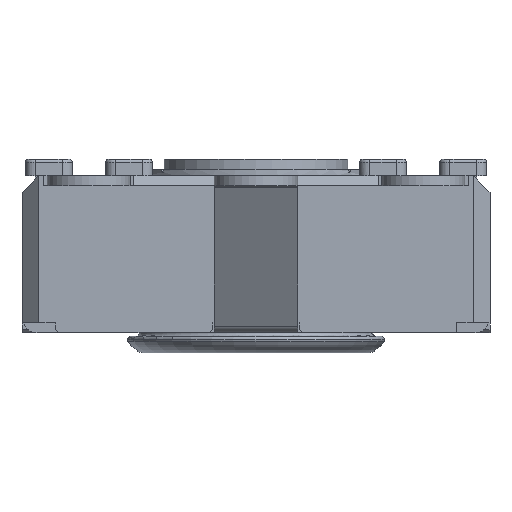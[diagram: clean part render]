
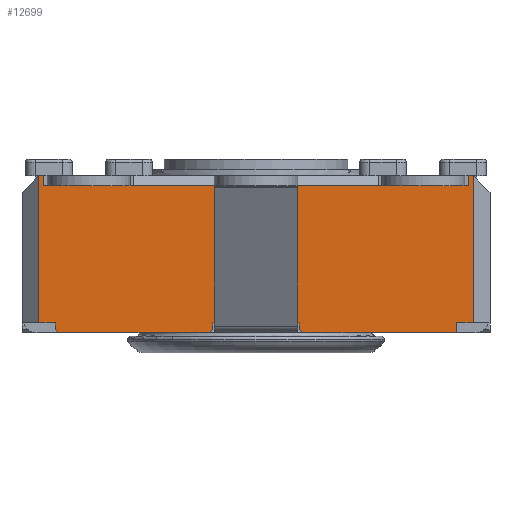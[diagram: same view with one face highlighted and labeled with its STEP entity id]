
A CAD part, front view. The second image highlights one B-rep face of the part: STEP entity #12699.
In plain terms, the highlighted planar face has unit normal (0, -1, 0).
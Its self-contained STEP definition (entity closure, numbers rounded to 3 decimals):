
#992=FACE_OUTER_BOUND('',#1664,.T.);
#1664=EDGE_LOOP('',(#9924,#9925,#9926,#9927,#9928,#9929,#9930,#9931,#9932,
#9933,#9934,#9935,#9936,#9937,#9938,#9939,#9940,#9941,#9942,#9943,#9944,
#9945,#9946,#9947,#9948,#9949,#9950));
#2075=LINE('',#17800,#3520);
#2146=LINE('',#17995,#3591);
#2147=LINE('',#17997,#3592);
#2148=LINE('',#18000,#3593);
#2153=LINE('',#18010,#3598);
#2215=LINE('',#18141,#3660);
#2222=LINE('',#18158,#3667);
#2351=LINE('',#18562,#3796);
#2366=LINE('',#18591,#3811);
#2434=LINE('',#18743,#3879);
#2442=LINE('',#18756,#3887);
#2560=LINE('',#19230,#4005);
#2767=LINE('',#19754,#4212);
#2772=LINE('',#19763,#4217);
#2775=LINE('',#19768,#4220);
#2863=LINE('',#20046,#4308);
#2871=LINE('',#20064,#4316);
#2877=LINE('',#20072,#4322);
#2878=LINE('',#20075,#4323);
#2879=LINE('',#20077,#4324);
#2880=LINE('',#20079,#4325);
#2881=LINE('',#20080,#4326);
#2882=LINE('',#20081,#4327);
#2883=LINE('',#20082,#4328);
#2884=LINE('',#20083,#4329);
#2885=LINE('',#20084,#4330);
#2886=LINE('',#20085,#4331);
#3520=VECTOR('',#14260,10.);
#3591=VECTOR('',#14421,10.);
#3592=VECTOR('',#14424,10.);
#3593=VECTOR('',#14427,10.);
#3598=VECTOR('',#14432,10.);
#3660=VECTOR('',#14544,10.);
#3667=VECTOR('',#14557,10.);
#3796=VECTOR('',#14982,10.);
#3811=VECTOR('',#15011,10.);
#3879=VECTOR('',#15161,10.);
#3887=VECTOR('',#15171,10.);
#4005=VECTOR('',#15431,10.);
#4212=VECTOR('',#15780,10.);
#4217=VECTOR('',#15785,10.);
#4220=VECTOR('',#15790,10.);
#4308=VECTOR('',#16016,10.);
#4316=VECTOR('',#16028,10.);
#4322=VECTOR('',#16038,10.);
#4323=VECTOR('',#16041,10.);
#4324=VECTOR('',#16042,10.);
#4325=VECTOR('',#16043,10.);
#4326=VECTOR('',#16044,10.);
#4327=VECTOR('',#16045,10.);
#4328=VECTOR('',#16046,10.);
#4329=VECTOR('',#16047,10.);
#4330=VECTOR('',#16048,10.);
#4331=VECTOR('',#16049,10.);
#4913=VERTEX_POINT('',#17675);
#4965=VERTEX_POINT('',#17799);
#4993=VERTEX_POINT('',#17875);
#5016=VERTEX_POINT('',#17925);
#5040=VERTEX_POINT('',#17981);
#5042=VERTEX_POINT('',#17987);
#5045=VERTEX_POINT('',#17999);
#5049=VERTEX_POINT('',#18007);
#5050=VERTEX_POINT('',#18009);
#5094=VERTEX_POINT('',#18139);
#5101=VERTEX_POINT('',#18157);
#5227=VERTEX_POINT('',#18559);
#5228=VERTEX_POINT('',#18561);
#5234=VERTEX_POINT('',#18588);
#5235=VERTEX_POINT('',#18590);
#5278=VERTEX_POINT('',#18742);
#5282=VERTEX_POINT('',#18754);
#5410=VERTEX_POINT('',#19226);
#5561=VERTEX_POINT('',#19753);
#5565=VERTEX_POINT('',#19761);
#5618=VERTEX_POINT('',#20044);
#5619=VERTEX_POINT('',#20045);
#5626=VERTEX_POINT('',#20062);
#5627=VERTEX_POINT('',#20063);
#5628=VERTEX_POINT('',#20074);
#5629=VERTEX_POINT('',#20076);
#5630=VERTEX_POINT('',#20078);
#6192=EDGE_CURVE('',#4965,#4913,#2075,.T.);
#6289=EDGE_CURVE('',#5040,#4993,#2146,.T.);
#6290=EDGE_CURVE('',#5042,#5016,#2147,.T.);
#6291=EDGE_CURVE('',#5045,#4965,#2148,.T.);
#6296=EDGE_CURVE('',#5050,#5049,#2153,.T.);
#6363=EDGE_CURVE('',#4993,#5094,#2215,.T.);
#6371=EDGE_CURVE('',#5101,#5040,#2222,.T.);
#6574=EDGE_CURVE('',#5228,#5227,#2351,.T.);
#6589=EDGE_CURVE('',#5235,#5234,#2366,.T.);
#6666=EDGE_CURVE('',#5278,#5042,#2434,.T.);
#6674=EDGE_CURVE('',#5016,#5282,#2442,.T.);
#6841=EDGE_CURVE('',#5235,#5410,#2560,.T.);
#7069=EDGE_CURVE('',#5561,#5410,#2767,.T.);
#7074=EDGE_CURVE('',#4913,#5565,#2772,.T.);
#7077=EDGE_CURVE('',#5050,#5227,#2775,.T.);
#7184=EDGE_CURVE('',#5618,#5619,#2863,.T.);
#7192=EDGE_CURVE('',#5626,#5627,#2871,.T.);
#7198=EDGE_CURVE('',#5045,#5618,#2877,.T.);
#7199=EDGE_CURVE('',#5565,#5628,#2878,.T.);
#7200=EDGE_CURVE('',#5629,#5628,#2879,.T.);
#7201=EDGE_CURVE('',#5629,#5630,#2880,.T.);
#7202=EDGE_CURVE('',#5630,#5561,#2881,.T.);
#7203=EDGE_CURVE('',#5234,#5278,#2882,.T.);
#7204=EDGE_CURVE('',#5101,#5282,#2883,.T.);
#7205=EDGE_CURVE('',#5094,#5228,#2884,.T.);
#7206=EDGE_CURVE('',#5049,#5627,#2885,.T.);
#7207=EDGE_CURVE('',#5626,#5619,#2886,.T.);
#9924=ORIENTED_EDGE('',*,*,#7184,.F.);
#9925=ORIENTED_EDGE('',*,*,#7198,.F.);
#9926=ORIENTED_EDGE('',*,*,#6291,.T.);
#9927=ORIENTED_EDGE('',*,*,#6192,.T.);
#9928=ORIENTED_EDGE('',*,*,#7074,.T.);
#9929=ORIENTED_EDGE('',*,*,#7199,.T.);
#9930=ORIENTED_EDGE('',*,*,#7200,.F.);
#9931=ORIENTED_EDGE('',*,*,#7201,.T.);
#9932=ORIENTED_EDGE('',*,*,#7202,.T.);
#9933=ORIENTED_EDGE('',*,*,#7069,.T.);
#9934=ORIENTED_EDGE('',*,*,#6841,.F.);
#9935=ORIENTED_EDGE('',*,*,#6589,.T.);
#9936=ORIENTED_EDGE('',*,*,#7203,.T.);
#9937=ORIENTED_EDGE('',*,*,#6666,.T.);
#9938=ORIENTED_EDGE('',*,*,#6290,.T.);
#9939=ORIENTED_EDGE('',*,*,#6674,.T.);
#9940=ORIENTED_EDGE('',*,*,#7204,.F.);
#9941=ORIENTED_EDGE('',*,*,#6371,.T.);
#9942=ORIENTED_EDGE('',*,*,#6289,.T.);
#9943=ORIENTED_EDGE('',*,*,#6363,.T.);
#9944=ORIENTED_EDGE('',*,*,#7205,.T.);
#9945=ORIENTED_EDGE('',*,*,#6574,.T.);
#9946=ORIENTED_EDGE('',*,*,#7077,.F.);
#9947=ORIENTED_EDGE('',*,*,#6296,.T.);
#9948=ORIENTED_EDGE('',*,*,#7206,.T.);
#9949=ORIENTED_EDGE('',*,*,#7192,.F.);
#9950=ORIENTED_EDGE('',*,*,#7207,.T.);
#11909=PLANE('',#13567);
#12699=ADVANCED_FACE('',(#992),#11909,.T.);
#13567=AXIS2_PLACEMENT_3D('',#20073,#16039,#16040);
#14260=DIRECTION('',(1.,0.,0.));
#14421=DIRECTION('',(-1.,0.,0.));
#14424=DIRECTION('',(-1.,0.,0.));
#14427=DIRECTION('',(1.,0.,0.));
#14432=DIRECTION('',(1.,0.,0.));
#14544=DIRECTION('',(-1.,0.,0.));
#14557=DIRECTION('',(-1.,0.,0.));
#14982=DIRECTION('',(-1.,0.,0.));
#15011=DIRECTION('',(-1.,0.,0.));
#15161=DIRECTION('',(-1.,0.,0.));
#15171=DIRECTION('',(-1.,0.,0.));
#15431=DIRECTION('',(0.,0.,-1.));
#15780=DIRECTION('',(1.,0.,0.));
#15785=DIRECTION('',(1.,0.,0.));
#15790=DIRECTION('',(0.,0.,1.));
#16016=DIRECTION('',(-0.707,0.,-0.707));
#16028=DIRECTION('',(-0.707,0.,0.707));
#16038=DIRECTION('',(0.,0.,-1.));
#16039=DIRECTION('center_axis',(0.,-1.,0.));
#16040=DIRECTION('ref_axis',(0.,0.,-1.));
#16041=DIRECTION('',(0.,0.,-1.));
#16042=DIRECTION('',(-0.707,0.,0.707));
#16043=DIRECTION('',(1.,0.,0.));
#16044=DIRECTION('',(0.,0.,1.));
#16045=DIRECTION('',(0.,0.,-1.));
#16046=DIRECTION('',(1.,0.,0.));
#16047=DIRECTION('',(0.,0.,1.));
#16048=DIRECTION('',(0.,0.,-1.));
#16049=DIRECTION('',(1.,0.,0.));
#17675=CARTESIAN_POINT('',(-6.217,-9.898,0.));
#17799=CARTESIAN_POINT('',(-8.717,-9.898,0.));
#17800=CARTESIAN_POINT('',(-14.467,-9.898,0.));
#17875=CARTESIAN_POINT('',(-13.717,-9.898,4.1));
#17925=CARTESIAN_POINT('',(-3.717,-9.898,4.1));
#17981=CARTESIAN_POINT('',(-11.217,-9.898,4.1));
#17987=CARTESIAN_POINT('',(-1.217,-9.898,4.1));
#17995=CARTESIAN_POINT('',(-3.944,-9.898,4.1));
#17997=CARTESIAN_POINT('',(-1.862,-9.898,4.1));
#17999=CARTESIAN_POINT('',(-8.767,-9.898,0.));
#18000=CARTESIAN_POINT('',(-14.467,-9.898,0.));
#18007=CARTESIAN_POINT('',(-13.467,-9.898,0.));
#18009=CARTESIAN_POINT('',(-13.967,-9.898,0.));
#18010=CARTESIAN_POINT('',(-7.245,-9.898,0.));
#18139=CARTESIAN_POINT('',(-13.817,-9.898,4.1));
#18141=CARTESIAN_POINT('',(-3.944,-9.898,4.1));
#18157=CARTESIAN_POINT('',(-11.117,-9.898,4.1));
#18158=CARTESIAN_POINT('',(-3.944,-9.898,4.1));
#18559=CARTESIAN_POINT('',(-13.967,-9.898,4.4));
#18561=CARTESIAN_POINT('',(-13.817,-9.898,4.4));
#18562=CARTESIAN_POINT('',(-14.467,-9.898,4.4));
#18588=CARTESIAN_POINT('',(-1.117,-9.898,4.4));
#18590=CARTESIAN_POINT('',(-0.967,-9.898,4.4));
#18591=CARTESIAN_POINT('',(-14.467,-9.898,4.4));
#18742=CARTESIAN_POINT('',(-1.117,-9.898,4.1));
#18743=CARTESIAN_POINT('',(-1.862,-9.898,4.1));
#18754=CARTESIAN_POINT('',(-3.817,-9.898,4.1));
#18756=CARTESIAN_POINT('',(-1.862,-9.898,4.1));
#19226=CARTESIAN_POINT('',(-0.967,-9.898,0.));
#19230=CARTESIAN_POINT('',(-0.967,-9.898,0.));
#19753=CARTESIAN_POINT('',(-1.467,-9.898,0.));
#19754=CARTESIAN_POINT('',(-0.646,-9.898,0.));
#19761=CARTESIAN_POINT('',(-6.167,-9.898,0.));
#19763=CARTESIAN_POINT('',(-14.467,-9.898,0.));
#19768=CARTESIAN_POINT('',(-13.967,-9.898,0.));
#20044=CARTESIAN_POINT('',(-8.767,-9.898,-0.2));
#20045=CARTESIAN_POINT('',(-8.867,-9.898,-0.3));
#20046=CARTESIAN_POINT('',(-6.667,-9.898,1.9));
#20062=CARTESIAN_POINT('',(-13.367,-9.898,-0.3));
#20063=CARTESIAN_POINT('',(-13.467,-9.898,-0.2));
#20064=CARTESIAN_POINT('',(-10.242,-9.898,-3.425));
#20072=CARTESIAN_POINT('',(-8.767,-9.898,0.));
#20073=CARTESIAN_POINT('Origin',(-0.467,-9.898,0.));
#20074=CARTESIAN_POINT('',(-6.167,-9.898,-0.2));
#20075=CARTESIAN_POINT('',(-6.167,-9.898,0.));
#20076=CARTESIAN_POINT('',(-6.067,-9.898,-0.3));
#20077=CARTESIAN_POINT('',(-4.767,-9.898,-1.6));
#20078=CARTESIAN_POINT('',(-1.467,-9.898,-0.3));
#20079=CARTESIAN_POINT('',(-0.467,-9.898,-0.3));
#20080=CARTESIAN_POINT('',(-1.467,-9.898,-0.15));
#20081=CARTESIAN_POINT('',(-1.117,-9.898,2.2));
#20082=CARTESIAN_POINT('',(-3.967,-9.898,4.1));
#20083=CARTESIAN_POINT('',(-13.817,-9.898,2.2));
#20084=CARTESIAN_POINT('',(-13.467,-9.898,-0.15));
#20085=CARTESIAN_POINT('',(-0.467,-9.898,-0.3));
